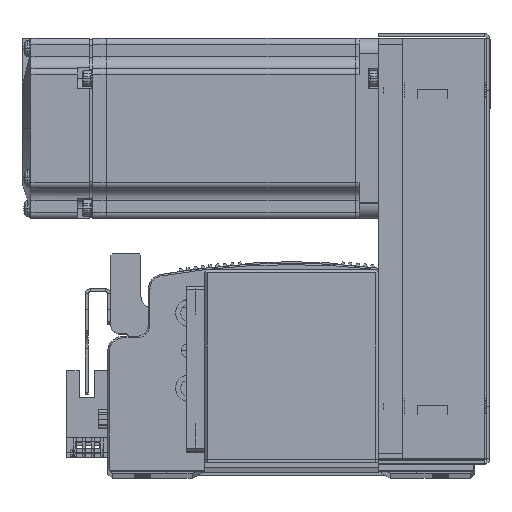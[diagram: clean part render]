
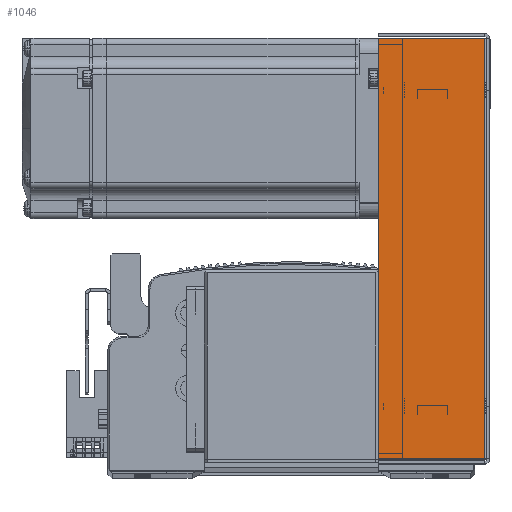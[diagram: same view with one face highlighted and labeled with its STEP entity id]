
A CAD part, top view. The second image highlights one B-rep face of the part: STEP entity #1046.
In plain terms, the highlighted planar face has unit normal (0, 0, 1) as drawn and (0, 0, -1) by its records, which use the part's own axes.
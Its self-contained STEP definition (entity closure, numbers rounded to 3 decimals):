
#351 = VERTEX_POINT ( 'NONE', #84502 ) ;
#416 = VERTEX_POINT ( 'NONE', #84551 ) ;
#428 = VERTEX_POINT ( 'NONE', #84588 ) ;
#512 = VERTEX_POINT ( 'NONE', #84646 ) ;
#1046 = ADVANCED_FACE ( 'NONE', ( #61774 ), #75360, .F. ) ;
#15784 = ORIENTED_EDGE ( 'NONE', *, *, #36914, .F. ) ;
#15806 = ORIENTED_EDGE ( 'NONE', *, *, #37015, .F. ) ;
#15847 = ORIENTED_EDGE ( 'NONE', *, *, #37279, .T. ) ;
#15849 = ORIENTED_EDGE ( 'NONE', *, *, #37052, .T. ) ;
#36914 = EDGE_CURVE ( 'NONE', #428, #512, #38076, .T. ) ;
#37015 = EDGE_CURVE ( 'NONE', #512, #351, #38171, .T. ) ;
#37052 = EDGE_CURVE ( 'NONE', #428, #416, #38260, .T. ) ;
#37279 = EDGE_CURVE ( 'NONE', #416, #351, #38262, .T. ) ;
#38076 = LINE ( 'NONE', #50433, #38091 ) ;
#38091 = VECTOR ( 'NONE', #50397, 1000. ) ;
#38144 = VECTOR ( 'NONE', #48968, 1000. ) ;
#38171 = LINE ( 'NONE', #49006, #38144 ) ;
#38216 = VECTOR ( 'NONE', #49115, 1000. ) ;
#38236 = VECTOR ( 'NONE', #49025, 1000. ) ;
#38260 = LINE ( 'NONE', #49043, #38236 ) ;
#38262 = LINE ( 'NONE', #49128, #38216 ) ;
#39549 = EDGE_LOOP ( 'NONE', ( #15784, #15849, #15847, #15806 ) ) ;
#48968 = DIRECTION ( 'NONE',  ( 0., 1., 0. ) ) ;
#49006 = CARTESIAN_POINT ( 'NONE',  ( 69.793, 0., -33.5 ) ) ;
#49025 = DIRECTION ( 'NONE',  ( 0., 1., 0. ) ) ;
#49043 = CARTESIAN_POINT ( 'NONE',  ( -69.793, 0., -33.5 ) ) ;
#49115 = DIRECTION ( 'NONE',  ( 1., 0., 0. ) ) ;
#49128 = CARTESIAN_POINT ( 'NONE',  ( 0., 36., -33.5 ) ) ;
#50397 = DIRECTION ( 'NONE',  ( 1., 0., 0. ) ) ;
#50433 = CARTESIAN_POINT ( 'NONE',  ( 71.5, 0.737, -33.5 ) ) ;
#51576 = AXIS2_PLACEMENT_3D ( 'NONE', #75351, #75389, #75367 ) ;
#61774 = FACE_OUTER_BOUND ( 'NONE', #39549, .T. ) ;
#75351 = CARTESIAN_POINT ( 'NONE',  ( 0., 0., -33.5 ) ) ;
#75360 = PLANE ( 'NONE',  #51576 ) ;
#75367 = DIRECTION ( 'NONE',  ( 0., -1., 0. ) ) ;
#75389 = DIRECTION ( 'NONE',  ( 0., 0., 1. ) ) ;
#84502 = CARTESIAN_POINT ( 'NONE',  ( 69.793, 36., -33.5 ) ) ;
#84551 = CARTESIAN_POINT ( 'NONE',  ( -69.793, 36., -33.5 ) ) ;
#84588 = CARTESIAN_POINT ( 'NONE',  ( -69.793, 0.737, -33.5 ) ) ;
#84646 = CARTESIAN_POINT ( 'NONE',  ( 69.793, 0.737, -33.5 ) ) ;
